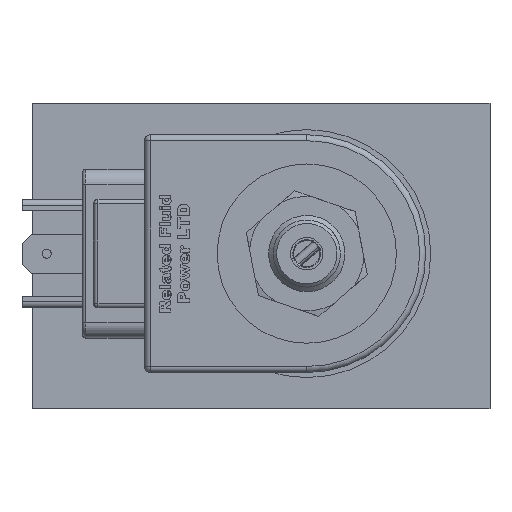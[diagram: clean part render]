
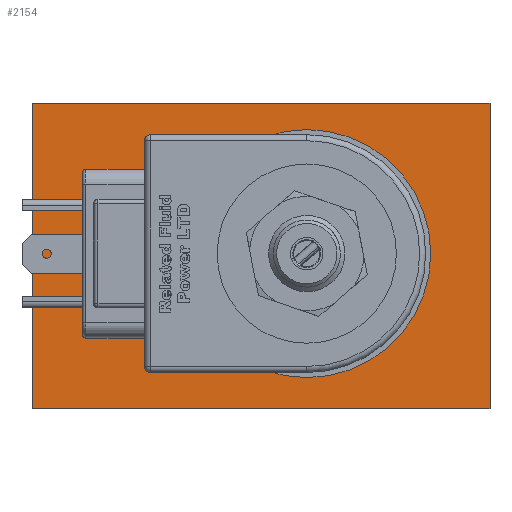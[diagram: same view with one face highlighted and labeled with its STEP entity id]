
A CAD part, front view. The second image highlights one B-rep face of the part: STEP entity #2154.
In plain terms, the highlighted planar face has unit normal (0, -1, 0).
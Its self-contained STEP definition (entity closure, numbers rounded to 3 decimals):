
#2154 = ADVANCED_FACE( '', ( #4405, #4406 ), #4407, .F. );
#4405 = FACE_BOUND( '', #6818, .T. );
#4406 = FACE_OUTER_BOUND( '', #6819, .T. );
#4407 = PLANE( '', #6820 );
#6818 = EDGE_LOOP( '', ( #12425 ) );
#6819 = EDGE_LOOP( '', ( #12426, #12427, #12428, #12429 ) );
#6820 = AXIS2_PLACEMENT_3D( '', #12430, #12431, #12432 );
#12425 = ORIENTED_EDGE( '', *, *, #14276, .T. );
#12426 = ORIENTED_EDGE( '', *, *, #14744, .F. );
#12427 = ORIENTED_EDGE( '', *, *, #14737, .F. );
#12428 = ORIENTED_EDGE( '', *, *, #14747, .F. );
#12429 = ORIENTED_EDGE( '', *, *, #14492, .F. );
#12430 = CARTESIAN_POINT( '', ( 0., 0., 0. ) );
#12431 = DIRECTION( '', ( 0., 1., 0. ) );
#12432 = DIRECTION( '', ( 0., 0., 1. ) );
#14276 = EDGE_CURVE( '', #17083, #17083, #17084, .T. );
#14492 = EDGE_CURVE( '', #17402, #17404, #17405, .T. );
#14737 = EDGE_CURVE( '', #17779, #17777, #17781, .T. );
#14744 = EDGE_CURVE( '', #17777, #17402, #17789, .T. );
#14747 = EDGE_CURVE( '', #17404, #17779, #17792, .T. );
#17083 = VERTEX_POINT( '', #21836 );
#17084 = CIRCLE( '', #21837, 20.638 );
#17402 = VERTEX_POINT( '', #22555 );
#17404 = VERTEX_POINT( '', #22558 );
#17405 = LINE( '', #22559, #22560 );
#17777 = VERTEX_POINT( '', #23429 );
#17779 = VERTEX_POINT( '', #23432 );
#17781 = LINE( '', #23435, #23436 );
#17789 = LINE( '', #23448, #23449 );
#17792 = LINE( '', #23453, #23454 );
#21836 = CARTESIAN_POINT( '', ( 45.7, 0., 5.163 ) );
#21837 = AXIS2_PLACEMENT_3D( '', #26550, #26551, #26552 );
#22555 = CARTESIAN_POINT( '', ( 0., 0., 0. ) );
#22558 = CARTESIAN_POINT( '', ( 0., 0., 50.8 ) );
#22559 = CARTESIAN_POINT( '', ( 0., 0., 0. ) );
#22560 = VECTOR( '', #26748, 1000. );
#23429 = CARTESIAN_POINT( '', ( 76.2, 0., 0. ) );
#23432 = CARTESIAN_POINT( '', ( 76.2, 0., 50.8 ) );
#23435 = CARTESIAN_POINT( '', ( 76.2, 0., 50.8 ) );
#23436 = VECTOR( '', #26944, 1000. );
#23448 = CARTESIAN_POINT( '', ( 76.2, 0., 0. ) );
#23449 = VECTOR( '', #26952, 1000. );
#23453 = CARTESIAN_POINT( '', ( 0., 0., 50.8 ) );
#23454 = VECTOR( '', #26954, 1000. );
#26550 = CARTESIAN_POINT( '', ( 45.7, 0., 25.8 ) );
#26551 = DIRECTION( '', ( 0., 1., 0. ) );
#26552 = DIRECTION( '', ( 0., 0., -1. ) );
#26748 = DIRECTION( '', ( 0., 0., 1. ) );
#26944 = DIRECTION( '', ( 0., 0., -1. ) );
#26952 = DIRECTION( '', ( -1., 0., 0. ) );
#26954 = DIRECTION( '', ( 1., 0., 0. ) );
